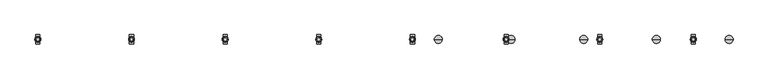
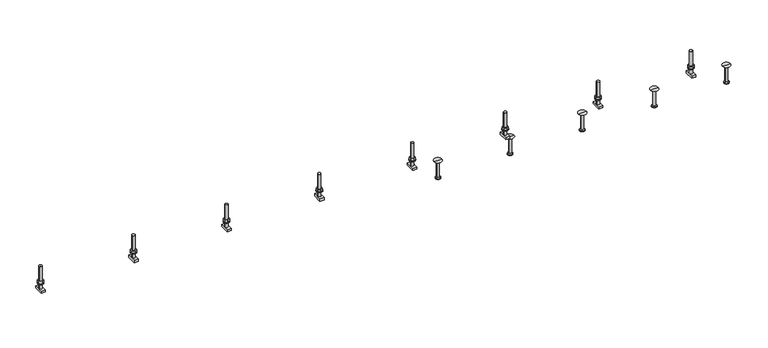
"""IFC4 building model written with IfcOpenShell, lengths in millimetres: fastener geometry, JTA-K JORDAHL® AnchorChannels : JTA-K L=3000 mm."""

from ifc_helpers import new_model, si_unit, point, frame, frame_2d, origin, place, context, project, spatial, polyline, circle_curve, trimmed, segment, composite_curve, outline, extrude, source, transform, mapped, element, save
from ifc_brep_helpers import plane_surface, cylinder_surface, revolved_surface, advanced_brep


def fastener_f85daf05(model_context):
    return source(origin(), model_context, "Body", "SolidModel", [
        extrude(outline(polyline([(2608.3333333, 9.2376043), (2616.3333333, 4.6188022), (2616.3333333, -4.6188022), (2608.3333333, -9.2376043), (2600.3333333, -4.6188022), (2600.3333333, 4.6188022), (2608.3333333, 9.2376043)]), holes=[composite_curve([segment(trimmed(circle_curve(frame_2d((2608.3333333, 0.0)), 5.0), [point((2603.3333333, 0.0))], [point((2613.3333333, 0.0))], True, "CARTESIAN"), True, "CONTINUOUS"), segment(trimmed(circle_curve(frame_2d((2608.3333333, 0.0)), 5.0), [point((2613.3333333, 0.0))], [point((2603.3333333, 0.0))], True, "CARTESIAN"), True, "CONTINUOUS")], self_intersect=False)]), frame((0.0, 0.0, 17.0), z_axis=(0.0, 0.0, 1.0), x_axis=(1.0, 0.0, 0.0)), (0.0, 0.0, 1.0), 8.4),
        extrude(outline(composite_curve([segment(trimmed(circle_curve(frame_2d((2608.3333333, 0.0)), 10.0), [point((2598.3333333, 0.0))], [point((2618.3333333, 0.0))], False, "CARTESIAN"), True, "CONTINUOUS"), segment(trimmed(circle_curve(frame_2d((2608.3333333, 0.0)), 10.0), [point((2618.3333333, 0.0))], [point((2598.3333333, 0.0))], False, "CARTESIAN"), True, "CONTINUOUS")], self_intersect=False), holes=[composite_curve([segment(trimmed(circle_curve(frame_2d((2608.3333333, 0.0)), 5.25), [point((2603.0833333, 0.0))], [point((2613.5833333, 0.0))], True, "CARTESIAN"), True, "CONTINUOUS"), segment(trimmed(circle_curve(frame_2d((2608.3333333, 0.0)), 5.25), [point((2613.5833333, 0.0))], [point((2603.0833333, 0.0))], True, "CARTESIAN"), True, "CONTINUOUS")], self_intersect=False)]), frame((0.0, 0.0, 15.0), z_axis=(0.0, 0.0, 1.0), x_axis=(1.0, 0.0, 0.0)), (0.0, 0.0, 1.0), 2.0),
        extrude(outline(polyline([(2291.6666667, 9.2376043), (2299.6666667, 4.6188022), (2299.6666667, -4.6188022), (2291.6666667, -9.2376043), (2283.6666667, -4.6188022), (2283.6666667, 4.6188022), (2291.6666667, 9.2376043)]), holes=[composite_curve([segment(trimmed(circle_curve(frame_2d((2291.6666667, 0.0)), 5.0), [point((2286.6666667, 0.0))], [point((2296.6666667, 0.0))], True, "CARTESIAN"), True, "CONTINUOUS"), segment(trimmed(circle_curve(frame_2d((2291.6666667, 0.0)), 5.0), [point((2296.6666667, 0.0))], [point((2286.6666667, 0.0))], True, "CARTESIAN"), True, "CONTINUOUS")], self_intersect=False)]), frame((0.0, 0.0, 17.0), z_axis=(0.0, 0.0, 1.0), x_axis=(1.0, 0.0, 0.0)), (0.0, 0.0, 1.0), 8.4),
        extrude(outline(composite_curve([segment(trimmed(circle_curve(frame_2d((2291.6666667, 0.0)), 10.0), [point((2281.6666667, 0.0))], [point((2301.6666667, 0.0))], False, "CARTESIAN"), True, "CONTINUOUS"), segment(trimmed(circle_curve(frame_2d((2291.6666667, 0.0)), 10.0), [point((2301.6666667, 0.0))], [point((2281.6666667, 0.0))], False, "CARTESIAN"), True, "CONTINUOUS")], self_intersect=False), holes=[composite_curve([segment(trimmed(circle_curve(frame_2d((2291.6666667, 0.0)), 5.25), [point((2286.4166667, 0.0))], [point((2296.9166667, 0.0))], True, "CARTESIAN"), True, "CONTINUOUS"), segment(trimmed(circle_curve(frame_2d((2291.6666667, 0.0)), 5.25), [point((2296.9166667, 0.0))], [point((2286.4166667, 0.0))], True, "CARTESIAN"), True, "CONTINUOUS")], self_intersect=False)]), frame((0.0, 0.0, 15.0), z_axis=(0.0, 0.0, 1.0), x_axis=(1.0, 0.0, 0.0)), (0.0, 0.0, 1.0), 2.0),
        extrude(outline(polyline([(1975.0, 9.2376043), (1983.0, 4.6188022), (1983.0, -4.6188022), (1975.0, -9.2376043), (1967.0, -4.6188022), (1967.0, 4.6188022), (1975.0, 9.2376043)]), holes=[composite_curve([segment(trimmed(circle_curve(frame_2d((1975.0, 0.0)), 5.0), [point((1970.0, 0.0))], [point((1980.0, 0.0))], True, "CARTESIAN"), True, "CONTINUOUS"), segment(trimmed(circle_curve(frame_2d((1975.0, 0.0)), 5.0), [point((1980.0, 0.0))], [point((1970.0, 0.0))], True, "CARTESIAN"), True, "CONTINUOUS")], self_intersect=False)]), frame((0.0, 0.0, 17.0), z_axis=(0.0, 0.0, 1.0), x_axis=(1.0, 0.0, 0.0)), (0.0, 0.0, 1.0), 8.4),
        extrude(outline(composite_curve([segment(trimmed(circle_curve(frame_2d((1975.0, 0.0)), 10.0), [point((1965.0, 0.0))], [point((1985.0, 0.0))], False, "CARTESIAN"), True, "CONTINUOUS"), segment(trimmed(circle_curve(frame_2d((1975.0, 0.0)), 10.0), [point((1985.0, 0.0))], [point((1965.0, 0.0))], False, "CARTESIAN"), True, "CONTINUOUS")], self_intersect=False), holes=[composite_curve([segment(trimmed(circle_curve(frame_2d((1975.0, 0.0)), 5.25), [point((1969.75, 0.0))], [point((1980.25, 0.0))], True, "CARTESIAN"), True, "CONTINUOUS"), segment(trimmed(circle_curve(frame_2d((1975.0, 0.0)), 5.25), [point((1980.25, 0.0))], [point((1969.75, 0.0))], True, "CARTESIAN"), True, "CONTINUOUS")], self_intersect=False)]), frame((0.0, 0.0, 15.0), z_axis=(0.0, 0.0, 1.0), x_axis=(1.0, 0.0, 0.0)), (0.0, 0.0, 1.0), 2.0),
        extrude(outline(polyline([(1658.3333333, 9.2376043), (1666.3333333, 4.6188022), (1666.3333333, -4.6188022), (1658.3333333, -9.2376043), (1650.3333333, -4.6188022), (1650.3333333, 4.6188022), (1658.3333333, 9.2376043)]), holes=[composite_curve([segment(trimmed(circle_curve(frame_2d((1658.3333333, 0.0)), 5.0), [point((1653.3333333, 0.0))], [point((1663.3333333, 0.0))], True, "CARTESIAN"), True, "CONTINUOUS"), segment(trimmed(circle_curve(frame_2d((1658.3333333, 0.0)), 5.0), [point((1663.3333333, 0.0))], [point((1653.3333333, 0.0))], True, "CARTESIAN"), True, "CONTINUOUS")], self_intersect=False)]), frame((0.0, 0.0, 17.0), z_axis=(0.0, 0.0, 1.0), x_axis=(1.0, 0.0, 0.0)), (0.0, 0.0, 1.0), 8.4),
        extrude(outline(composite_curve([segment(trimmed(circle_curve(frame_2d((1658.3333333, 0.0)), 10.0), [point((1648.3333333, 0.0))], [point((1668.3333333, 0.0))], False, "CARTESIAN"), True, "CONTINUOUS"), segment(trimmed(circle_curve(frame_2d((1658.3333333, 0.0)), 10.0), [point((1668.3333333, 0.0))], [point((1648.3333333, 0.0))], False, "CARTESIAN"), True, "CONTINUOUS")], self_intersect=False), holes=[composite_curve([segment(trimmed(circle_curve(frame_2d((1658.3333333, 0.0)), 5.25), [point((1653.0833333, 0.0))], [point((1663.5833333, 0.0))], True, "CARTESIAN"), True, "CONTINUOUS"), segment(trimmed(circle_curve(frame_2d((1658.3333333, 0.0)), 5.25), [point((1663.5833333, 0.0))], [point((1653.0833333, 0.0))], True, "CARTESIAN"), True, "CONTINUOUS")], self_intersect=False)]), frame((0.0, 0.0, 15.0), z_axis=(0.0, 0.0, 1.0), x_axis=(1.0, 0.0, 0.0)), (0.0, 0.0, 1.0), 2.0),
        extrude(outline(polyline([(1341.6666667, 9.2376043), (1349.6666667, 4.6188022), (1349.6666667, -4.6188022), (1341.6666667, -9.2376043), (1333.6666667, -4.6188022), (1333.6666667, 4.6188022), (1341.6666667, 9.2376043)]), holes=[composite_curve([segment(trimmed(circle_curve(frame_2d((1341.6666667, 0.0)), 5.0), [point((1336.6666667, 0.0))], [point((1346.6666667, 0.0))], True, "CARTESIAN"), True, "CONTINUOUS"), segment(trimmed(circle_curve(frame_2d((1341.6666667, 0.0)), 5.0), [point((1346.6666667, 0.0))], [point((1336.6666667, 0.0))], True, "CARTESIAN"), True, "CONTINUOUS")], self_intersect=False)]), frame((0.0, 0.0, 17.0), z_axis=(0.0, 0.0, 1.0), x_axis=(1.0, 0.0, 0.0)), (0.0, 0.0, 1.0), 8.4),
        extrude(outline(composite_curve([segment(trimmed(circle_curve(frame_2d((1341.6666667, 0.0)), 10.0), [point((1331.6666667, 0.0))], [point((1351.6666667, 0.0))], False, "CARTESIAN"), True, "CONTINUOUS"), segment(trimmed(circle_curve(frame_2d((1341.6666667, 0.0)), 10.0), [point((1351.6666667, 0.0))], [point((1331.6666667, 0.0))], False, "CARTESIAN"), True, "CONTINUOUS")], self_intersect=False), holes=[composite_curve([segment(trimmed(circle_curve(frame_2d((1341.6666667, 0.0)), 5.25), [point((1336.4166667, 0.0))], [point((1346.9166667, 0.0))], True, "CARTESIAN"), True, "CONTINUOUS"), segment(trimmed(circle_curve(frame_2d((1341.6666667, 0.0)), 5.25), [point((1346.9166667, 0.0))], [point((1336.4166667, 0.0))], True, "CARTESIAN"), True, "CONTINUOUS")], self_intersect=False)]), frame((0.0, 0.0, 15.0), z_axis=(0.0, 0.0, 1.0), x_axis=(1.0, 0.0, 0.0)), (0.0, 0.0, 1.0), 2.0),
        extrude(outline(polyline([(1025.0, 9.2376043), (1033.0, 4.6188022), (1033.0, -4.6188022), (1025.0, -9.2376043), (1017.0, -4.6188022), (1017.0, 4.6188022), (1025.0, 9.2376043)]), holes=[composite_curve([segment(trimmed(circle_curve(frame_2d((1025.0, 0.0)), 5.0), [point((1020.0, 0.0))], [point((1030.0, 0.0))], True, "CARTESIAN"), True, "CONTINUOUS"), segment(trimmed(circle_curve(frame_2d((1025.0, 0.0)), 5.0), [point((1030.0, 0.0))], [point((1020.0, 0.0))], True, "CARTESIAN"), True, "CONTINUOUS")], self_intersect=False)]), frame((0.0, 0.0, 17.0), z_axis=(0.0, 0.0, 1.0), x_axis=(1.0, 0.0, 0.0)), (0.0, 0.0, 1.0), 8.4),
        extrude(outline(composite_curve([segment(trimmed(circle_curve(frame_2d((1025.0, 0.0)), 10.0), [point((1015.0, 0.0))], [point((1035.0, 0.0))], False, "CARTESIAN"), True, "CONTINUOUS"), segment(trimmed(circle_curve(frame_2d((1025.0, 0.0)), 10.0), [point((1035.0, 0.0))], [point((1015.0, 0.0))], False, "CARTESIAN"), True, "CONTINUOUS")], self_intersect=False), holes=[composite_curve([segment(trimmed(circle_curve(frame_2d((1025.0, 0.0)), 5.25), [point((1019.75, 0.0))], [point((1030.25, 0.0))], True, "CARTESIAN"), True, "CONTINUOUS"), segment(trimmed(circle_curve(frame_2d((1025.0, 0.0)), 5.25), [point((1030.25, 0.0))], [point((1019.75, 0.0))], True, "CARTESIAN"), True, "CONTINUOUS")], self_intersect=False)]), frame((0.0, 0.0, 15.0), z_axis=(0.0, 0.0, 1.0), x_axis=(1.0, 0.0, 0.0)), (0.0, 0.0, 1.0), 2.0),
        extrude(outline(polyline([(708.3333333, 9.2376043), (716.3333333, 4.6188022), (716.3333333, -4.6188022), (708.3333333, -9.2376043), (700.3333333, -4.6188022), (700.3333333, 4.6188022), (708.3333333, 9.2376043)]), holes=[composite_curve([segment(trimmed(circle_curve(frame_2d((708.3333333, 0.0)), 5.0), [point((703.3333333, 0.0))], [point((713.3333333, 0.0))], True, "CARTESIAN"), True, "CONTINUOUS"), segment(trimmed(circle_curve(frame_2d((708.3333333, 0.0)), 5.0), [point((713.3333333, 0.0))], [point((703.3333333, 0.0))], True, "CARTESIAN"), True, "CONTINUOUS")], self_intersect=False)]), frame((0.0, 0.0, 17.0), z_axis=(0.0, 0.0, 1.0), x_axis=(1.0, 0.0, 0.0)), (0.0, 0.0, 1.0), 8.4),
        extrude(outline(composite_curve([segment(trimmed(circle_curve(frame_2d((708.3333333, 0.0)), 10.0), [point((698.3333333, 0.0))], [point((718.3333333, 0.0))], False, "CARTESIAN"), True, "CONTINUOUS"), segment(trimmed(circle_curve(frame_2d((708.3333333, 0.0)), 10.0), [point((718.3333333, 0.0))], [point((698.3333333, 0.0))], False, "CARTESIAN"), True, "CONTINUOUS")], self_intersect=False), holes=[composite_curve([segment(trimmed(circle_curve(frame_2d((708.3333333, 0.0)), 5.25), [point((703.0833333, 0.0))], [point((713.5833333, 0.0))], True, "CARTESIAN"), True, "CONTINUOUS"), segment(trimmed(circle_curve(frame_2d((708.3333333, 0.0)), 5.25), [point((713.5833333, 0.0))], [point((703.0833333, 0.0))], True, "CARTESIAN"), True, "CONTINUOUS")], self_intersect=False)]), frame((0.0, 0.0, 15.0), z_axis=(0.0, 0.0, 1.0), x_axis=(1.0, 0.0, 0.0)), (0.0, 0.0, 1.0), 2.0),
        extrude(outline(polyline([(391.6666667, 9.2376043), (399.6666667, 4.6188022), (399.6666667, -4.6188022), (391.6666667, -9.2376043), (383.6666667, -4.6188022), (383.6666667, 4.6188022), (391.6666667, 9.2376043)]), holes=[composite_curve([segment(trimmed(circle_curve(frame_2d((391.6666667, 0.0)), 5.0), [point((386.6666667, 0.0))], [point((396.6666667, 0.0))], True, "CARTESIAN"), True, "CONTINUOUS"), segment(trimmed(circle_curve(frame_2d((391.6666667, 0.0)), 5.0), [point((396.6666667, 0.0))], [point((386.6666667, 0.0))], True, "CARTESIAN"), True, "CONTINUOUS")], self_intersect=False)]), frame((0.0, 0.0, 17.0), z_axis=(0.0, 0.0, 1.0), x_axis=(1.0, 0.0, 0.0)), (0.0, 0.0, 1.0), 8.4),
        extrude(outline(composite_curve([segment(trimmed(circle_curve(frame_2d((391.6666667, 0.0)), 10.0), [point((381.6666667, 0.0))], [point((401.6666667, 0.0))], False, "CARTESIAN"), True, "CONTINUOUS"), segment(trimmed(circle_curve(frame_2d((391.6666667, 0.0)), 10.0), [point((401.6666667, 0.0))], [point((381.6666667, 0.0))], False, "CARTESIAN"), True, "CONTINUOUS")], self_intersect=False), holes=[composite_curve([segment(trimmed(circle_curve(frame_2d((391.6666667, 0.0)), 5.25), [point((386.4166667, 0.0))], [point((396.9166667, 0.0))], True, "CARTESIAN"), True, "CONTINUOUS"), segment(trimmed(circle_curve(frame_2d((391.6666667, 0.0)), 5.25), [point((396.9166667, 0.0))], [point((386.4166667, 0.0))], True, "CARTESIAN"), True, "CONTINUOUS")], self_intersect=False)]), frame((0.0, 0.0, 15.0), z_axis=(0.0, 0.0, 1.0), x_axis=(1.0, 0.0, 0.0)), (0.0, 0.0, 1.0), 2.0),
        advanced_brep(
        [(2615.3333333, 16.0, -3.0), (2615.3333333, -16.0, -3.0), (2615.3333333, -16.0, -11.0), (2615.3333333, 16.0, -11.0), (2601.3333333, 16.0, -3.0), (2601.3333333, 16.0, -11.0), (2601.3333333, -16.0, -11.0), (2601.3333333, -16.0, -3.0), (2613.3333333, 0.0, -3.0), (2603.3333333, 0.0, -3.0), (2603.3333333, 0.0, 77.0), (2613.3333333, 0.0, 77.0)],
        [
            (0, 1),
            (1, 2),
            (2, 3),
            (3, 0),
            (4, 5),
            (5, 6),
            (6, 7),
            (7, 4),
            (0, 4),
            (7, 1),
            (8, 9, circle_curve(frame((2608.3333333, 0.0, -3.0), z_axis=(0.0, 0.0, -1.0), x_axis=(1.0, 0.0, 0.0)), 5.0)),
            (9, 8, circle_curve(frame((2608.3333333, 0.0, -3.0), z_axis=(0.0, 0.0, -1.0), x_axis=(1.0, 0.0, 0.0)), 5.0)),
            (6, 2),
            (5, 3),
            (10, 11, circle_curve(frame((2608.3333333, 0.0, 77.0), z_axis=(0.0, 0.0, 1.0), x_axis=(1.0, 0.0, 0.0)), 5.0)),
            (11, 10, circle_curve(frame((2608.3333333, 0.0, 77.0), z_axis=(0.0, 0.0, 1.0), x_axis=(1.0, 0.0, 0.0)), 5.0)),
            (10, 9),
            (8, 11),
        ],
        [
            plane_surface(frame((2615.3333333, -16.0, -3.0), z_axis=(1.0, 0.0, 0.0), x_axis=(0.0, -1.0, 0.0))),
            plane_surface(frame((2601.3333333, -16.0, -3.0), z_axis=(-1.0, 0.0, 0.0), x_axis=(0.0, 1.0, 0.0))),
            plane_surface(frame((2615.3333333, 16.0, -3.0), z_axis=(0.0, 0.0, 1.0), x_axis=(-1.0, 0.0, 0.0))),
            plane_surface(frame((2615.3333333, -16.0, -3.0), z_axis=(0.0, -1.0, 0.0), x_axis=(-1.0, 0.0, 0.0))),
            plane_surface(frame((2615.3333333, -16.0, -11.0), z_axis=(0.0, 0.0, -1.0), x_axis=(-1.0, 0.0, 0.0))),
            plane_surface(frame((2615.3333333, 16.0, -11.0), z_axis=(0.0, 1.0, 0.0), x_axis=(-1.0, 0.0, 0.0))),
            plane_surface(frame((2613.3333333, 0.0, 77.0), z_axis=(0.0, 0.0, 1.0), x_axis=(0.0, 1.0, 0.0))),
            cylinder_surface(frame((2608.3333333, 0.0, -3.0), z_axis=(0.0, 0.0, 1.0), x_axis=(1.0, 0.0, 0.0)), 5.0),
        ],
        [
            (0, [[1, 2, 3, 4]]),
            (1, [[5, 6, 7, 8]]),
            (2, [[-1, 9, -8, 10], [11, 12]]),
            (3, [[-2, -10, -7, 13]]),
            (4, [[-3, -13, -6, 14]]),
            (5, [[-4, -14, -5, -9]]),
            (6, [[15, 16]]),
            (7, [[-15, 17, -11, 18]]),
            (7, [[-16, -18, -12, -17]]),
        ],
    ),
        advanced_brep(
        [(2298.6666667, 16.0, -3.0), (2298.6666667, -16.0, -3.0), (2298.6666667, -16.0, -11.0), (2298.6666667, 16.0, -11.0), (2284.6666667, 16.0, -3.0), (2284.6666667, 16.0, -11.0), (2284.6666667, -16.0, -11.0), (2284.6666667, -16.0, -3.0), (2296.6666667, 0.0, -3.0), (2286.6666667, 0.0, -3.0), (2286.6666667, 0.0, 77.0), (2296.6666667, 0.0, 77.0)],
        [
            (0, 1),
            (1, 2),
            (2, 3),
            (3, 0),
            (4, 5),
            (5, 6),
            (6, 7),
            (7, 4),
            (0, 4),
            (7, 1),
            (8, 9, circle_curve(frame((2291.6666667, 0.0, -3.0), z_axis=(0.0, 0.0, -1.0), x_axis=(1.0, 0.0, 0.0)), 5.0)),
            (9, 8, circle_curve(frame((2291.6666667, 0.0, -3.0), z_axis=(0.0, 0.0, -1.0), x_axis=(1.0, 0.0, 0.0)), 5.0)),
            (6, 2),
            (5, 3),
            (10, 11, circle_curve(frame((2291.6666667, 0.0, 77.0), z_axis=(0.0, 0.0, 1.0), x_axis=(1.0, 0.0, 0.0)), 5.0)),
            (11, 10, circle_curve(frame((2291.6666667, 0.0, 77.0), z_axis=(0.0, 0.0, 1.0), x_axis=(1.0, 0.0, 0.0)), 5.0)),
            (10, 9),
            (8, 11),
        ],
        [
            plane_surface(frame((2298.6666667, -16.0, -3.0), z_axis=(1.0, 0.0, 0.0), x_axis=(0.0, -1.0, 0.0))),
            plane_surface(frame((2284.6666667, -16.0, -3.0), z_axis=(-1.0, 0.0, 0.0), x_axis=(0.0, 1.0, 0.0))),
            plane_surface(frame((2298.6666667, 16.0, -3.0), z_axis=(0.0, 0.0, 1.0), x_axis=(-1.0, 0.0, 0.0))),
            plane_surface(frame((2298.6666667, -16.0, -3.0), z_axis=(0.0, -1.0, 0.0), x_axis=(-1.0, 0.0, 0.0))),
            plane_surface(frame((2298.6666667, -16.0, -11.0), z_axis=(0.0, 0.0, -1.0), x_axis=(-1.0, 0.0, 0.0))),
            plane_surface(frame((2298.6666667, 16.0, -11.0), z_axis=(0.0, 1.0, 0.0), x_axis=(-1.0, 0.0, 0.0))),
            plane_surface(frame((2296.6666667, 0.0, 77.0), z_axis=(0.0, 0.0, 1.0), x_axis=(0.0, 1.0, 0.0))),
            cylinder_surface(frame((2291.6666667, 0.0, -3.0), z_axis=(0.0, 0.0, 1.0), x_axis=(1.0, 0.0, 0.0)), 5.0),
        ],
        [
            (0, [[1, 2, 3, 4]]),
            (1, [[5, 6, 7, 8]]),
            (2, [[-1, 9, -8, 10], [11, 12]]),
            (3, [[-2, -10, -7, 13]]),
            (4, [[-3, -13, -6, 14]]),
            (5, [[-4, -14, -5, -9]]),
            (6, [[15, 16]]),
            (7, [[-15, 17, -11, 18]]),
            (7, [[-16, -18, -12, -17]]),
        ],
    ),
        advanced_brep(
        [(1982.0, 16.0, -3.0), (1982.0, -16.0, -3.0), (1982.0, -16.0, -11.0), (1982.0, 16.0, -11.0), (1968.0, 16.0, -3.0), (1968.0, 16.0, -11.0), (1968.0, -16.0, -11.0), (1968.0, -16.0, -3.0), (1980.0, 0.0, -3.0), (1970.0, 0.0, -3.0), (1970.0, 0.0, 77.0), (1980.0, 0.0, 77.0)],
        [
            (0, 1),
            (1, 2),
            (2, 3),
            (3, 0),
            (4, 5),
            (5, 6),
            (6, 7),
            (7, 4),
            (0, 4),
            (7, 1),
            (8, 9, circle_curve(frame((1975.0, 0.0, -3.0), z_axis=(0.0, 0.0, -1.0), x_axis=(1.0, 0.0, 0.0)), 5.0)),
            (9, 8, circle_curve(frame((1975.0, 0.0, -3.0), z_axis=(0.0, 0.0, -1.0), x_axis=(1.0, 0.0, 0.0)), 5.0)),
            (6, 2),
            (5, 3),
            (10, 11, circle_curve(frame((1975.0, 0.0, 77.0), z_axis=(0.0, 0.0, 1.0), x_axis=(1.0, 0.0, 0.0)), 5.0)),
            (11, 10, circle_curve(frame((1975.0, 0.0, 77.0), z_axis=(0.0, 0.0, 1.0), x_axis=(1.0, 0.0, 0.0)), 5.0)),
            (10, 9),
            (8, 11),
        ],
        [
            plane_surface(frame((1982.0, -16.0, -3.0), z_axis=(1.0, 0.0, 0.0), x_axis=(0.0, -1.0, 0.0))),
            plane_surface(frame((1968.0, -16.0, -3.0), z_axis=(-1.0, 0.0, 0.0), x_axis=(0.0, 1.0, 0.0))),
            plane_surface(frame((1982.0, 16.0, -3.0), z_axis=(0.0, 0.0, 1.0), x_axis=(-1.0, 0.0, 0.0))),
            plane_surface(frame((1982.0, -16.0, -3.0), z_axis=(0.0, -1.0, 0.0), x_axis=(-1.0, 0.0, 0.0))),
            plane_surface(frame((1982.0, -16.0, -11.0), z_axis=(0.0, 0.0, -1.0), x_axis=(-1.0, 0.0, 0.0))),
            plane_surface(frame((1982.0, 16.0, -11.0), z_axis=(0.0, 1.0, 0.0), x_axis=(-1.0, 0.0, 0.0))),
            plane_surface(frame((1980.0, 0.0, 77.0), z_axis=(0.0, 0.0, 1.0), x_axis=(0.0, 1.0, 0.0))),
            cylinder_surface(frame((1975.0, 0.0, -3.0), z_axis=(0.0, 0.0, 1.0), x_axis=(1.0, 0.0, 0.0)), 5.0),
        ],
        [
            (0, [[1, 2, 3, 4]]),
            (1, [[5, 6, 7, 8]]),
            (2, [[-1, 9, -8, 10], [11, 12]]),
            (3, [[-2, -10, -7, 13]]),
            (4, [[-3, -13, -6, 14]]),
            (5, [[-4, -14, -5, -9]]),
            (6, [[15, 16]]),
            (7, [[-15, 17, -11, 18]]),
            (7, [[-16, -18, -12, -17]]),
        ],
    ),
        advanced_brep(
        [(1665.3333333, 16.0, -3.0), (1665.3333333, -16.0, -3.0), (1665.3333333, -16.0, -11.0), (1665.3333333, 16.0, -11.0), (1651.3333333, 16.0, -3.0), (1651.3333333, 16.0, -11.0), (1651.3333333, -16.0, -11.0), (1651.3333333, -16.0, -3.0), (1663.3333333, 0.0, -3.0), (1653.3333333, 0.0, -3.0), (1653.3333333, 0.0, 77.0), (1663.3333333, 0.0, 77.0)],
        [
            (0, 1),
            (1, 2),
            (2, 3),
            (3, 0),
            (4, 5),
            (5, 6),
            (6, 7),
            (7, 4),
            (0, 4),
            (7, 1),
            (8, 9, circle_curve(frame((1658.3333333, 0.0, -3.0), z_axis=(0.0, 0.0, -1.0), x_axis=(1.0, 0.0, 0.0)), 5.0)),
            (9, 8, circle_curve(frame((1658.3333333, 0.0, -3.0), z_axis=(0.0, 0.0, -1.0), x_axis=(1.0, 0.0, 0.0)), 5.0)),
            (6, 2),
            (5, 3),
            (10, 11, circle_curve(frame((1658.3333333, 0.0, 77.0), z_axis=(0.0, 0.0, 1.0), x_axis=(1.0, 0.0, 0.0)), 5.0)),
            (11, 10, circle_curve(frame((1658.3333333, 0.0, 77.0), z_axis=(0.0, 0.0, 1.0), x_axis=(1.0, 0.0, 0.0)), 5.0)),
            (10, 9),
            (8, 11),
        ],
        [
            plane_surface(frame((1665.3333333, -16.0, -3.0), z_axis=(1.0, 0.0, 0.0), x_axis=(0.0, -1.0, 0.0))),
            plane_surface(frame((1651.3333333, -16.0, -3.0), z_axis=(-1.0, 0.0, 0.0), x_axis=(0.0, 1.0, 0.0))),
            plane_surface(frame((1665.3333333, 16.0, -3.0), z_axis=(0.0, 0.0, 1.0), x_axis=(-1.0, 0.0, 0.0))),
            plane_surface(frame((1665.3333333, -16.0, -3.0), z_axis=(0.0, -1.0, 0.0), x_axis=(-1.0, 0.0, 0.0))),
            plane_surface(frame((1665.3333333, -16.0, -11.0), z_axis=(0.0, 0.0, -1.0), x_axis=(-1.0, 0.0, 0.0))),
            plane_surface(frame((1665.3333333, 16.0, -11.0), z_axis=(0.0, 1.0, 0.0), x_axis=(-1.0, 0.0, 0.0))),
            plane_surface(frame((1663.3333333, 0.0, 77.0), z_axis=(0.0, 0.0, 1.0), x_axis=(0.0, 1.0, 0.0))),
            cylinder_surface(frame((1658.3333333, 0.0, -3.0), z_axis=(0.0, 0.0, 1.0), x_axis=(1.0, 0.0, 0.0)), 5.0),
        ],
        [
            (0, [[1, 2, 3, 4]]),
            (1, [[5, 6, 7, 8]]),
            (2, [[-1, 9, -8, 10], [11, 12]]),
            (3, [[-2, -10, -7, 13]]),
            (4, [[-3, -13, -6, 14]]),
            (5, [[-4, -14, -5, -9]]),
            (6, [[15, 16]]),
            (7, [[-15, 17, -11, 18]]),
            (7, [[-16, -18, -12, -17]]),
        ],
    ),
        advanced_brep(
        [(1348.6666667, 16.0, -3.0), (1348.6666667, -16.0, -3.0), (1348.6666667, -16.0, -11.0), (1348.6666667, 16.0, -11.0), (1334.6666667, 16.0, -3.0), (1334.6666667, 16.0, -11.0), (1334.6666667, -16.0, -11.0), (1334.6666667, -16.0, -3.0), (1346.6666667, 0.0, -3.0), (1336.6666667, 0.0, -3.0), (1336.6666667, 0.0, 77.0), (1346.6666667, 0.0, 77.0)],
        [
            (0, 1),
            (1, 2),
            (2, 3),
            (3, 0),
            (4, 5),
            (5, 6),
            (6, 7),
            (7, 4),
            (0, 4),
            (7, 1),
            (8, 9, circle_curve(frame((1341.6666667, 0.0, -3.0), z_axis=(0.0, 0.0, -1.0), x_axis=(1.0, 0.0, 0.0)), 5.0)),
            (9, 8, circle_curve(frame((1341.6666667, 0.0, -3.0), z_axis=(0.0, 0.0, -1.0), x_axis=(1.0, 0.0, 0.0)), 5.0)),
            (6, 2),
            (5, 3),
            (10, 11, circle_curve(frame((1341.6666667, 0.0, 77.0), z_axis=(0.0, 0.0, 1.0), x_axis=(1.0, 0.0, 0.0)), 5.0)),
            (11, 10, circle_curve(frame((1341.6666667, 0.0, 77.0), z_axis=(0.0, 0.0, 1.0), x_axis=(1.0, 0.0, 0.0)), 5.0)),
            (10, 9),
            (8, 11),
        ],
        [
            plane_surface(frame((1348.6666667, -16.0, -3.0), z_axis=(1.0, 0.0, 0.0), x_axis=(0.0, -1.0, 0.0))),
            plane_surface(frame((1334.6666667, -16.0, -3.0), z_axis=(-1.0, 0.0, 0.0), x_axis=(0.0, 1.0, 0.0))),
            plane_surface(frame((1348.6666667, 16.0, -3.0), z_axis=(0.0, 0.0, 1.0), x_axis=(-1.0, 0.0, 0.0))),
            plane_surface(frame((1348.6666667, -16.0, -3.0), z_axis=(0.0, -1.0, 0.0), x_axis=(-1.0, 0.0, 0.0))),
            plane_surface(frame((1348.6666667, -16.0, -11.0), z_axis=(0.0, 0.0, -1.0), x_axis=(-1.0, 0.0, 0.0))),
            plane_surface(frame((1348.6666667, 16.0, -11.0), z_axis=(0.0, 1.0, 0.0), x_axis=(-1.0, 0.0, 0.0))),
            plane_surface(frame((1346.6666667, 0.0, 77.0), z_axis=(0.0, 0.0, 1.0), x_axis=(0.0, 1.0, 0.0))),
            cylinder_surface(frame((1341.6666667, 0.0, -3.0), z_axis=(0.0, 0.0, 1.0), x_axis=(1.0, 0.0, 0.0)), 5.0),
        ],
        [
            (0, [[1, 2, 3, 4]]),
            (1, [[5, 6, 7, 8]]),
            (2, [[-1, 9, -8, 10], [11, 12]]),
            (3, [[-2, -10, -7, 13]]),
            (4, [[-3, -13, -6, 14]]),
            (5, [[-4, -14, -5, -9]]),
            (6, [[15, 16]]),
            (7, [[-15, 17, -11, 18]]),
            (7, [[-16, -18, -12, -17]]),
        ],
    ),
        advanced_brep(
        [(1032.0, 16.0, -3.0), (1032.0, -16.0, -3.0), (1032.0, -16.0, -11.0), (1032.0, 16.0, -11.0), (1018.0, 16.0, -3.0), (1018.0, 16.0, -11.0), (1018.0, -16.0, -11.0), (1018.0, -16.0, -3.0), (1030.0, 0.0, -3.0), (1020.0, 0.0, -3.0), (1020.0, 0.0, 77.0), (1030.0, 0.0, 77.0)],
        [
            (0, 1),
            (1, 2),
            (2, 3),
            (3, 0),
            (4, 5),
            (5, 6),
            (6, 7),
            (7, 4),
            (0, 4),
            (7, 1),
            (8, 9, circle_curve(frame((1025.0, 0.0, -3.0), z_axis=(0.0, 0.0, -1.0), x_axis=(1.0, 0.0, 0.0)), 5.0)),
            (9, 8, circle_curve(frame((1025.0, 0.0, -3.0), z_axis=(0.0, 0.0, -1.0), x_axis=(1.0, 0.0, 0.0)), 5.0)),
            (6, 2),
            (5, 3),
            (10, 11, circle_curve(frame((1025.0, 0.0, 77.0), z_axis=(0.0, 0.0, 1.0), x_axis=(1.0, 0.0, 0.0)), 5.0)),
            (11, 10, circle_curve(frame((1025.0, 0.0, 77.0), z_axis=(0.0, 0.0, 1.0), x_axis=(1.0, 0.0, 0.0)), 5.0)),
            (10, 9),
            (8, 11),
        ],
        [
            plane_surface(frame((1032.0, -16.0, -3.0), z_axis=(1.0, 0.0, 0.0), x_axis=(0.0, -1.0, 0.0))),
            plane_surface(frame((1018.0, -16.0, -3.0), z_axis=(-1.0, 0.0, 0.0), x_axis=(0.0, 1.0, 0.0))),
            plane_surface(frame((1032.0, 16.0, -3.0), z_axis=(0.0, 0.0, 1.0), x_axis=(-1.0, 0.0, 0.0))),
            plane_surface(frame((1032.0, -16.0, -3.0), z_axis=(0.0, -1.0, 0.0), x_axis=(-1.0, 0.0, 0.0))),
            plane_surface(frame((1032.0, -16.0, -11.0), z_axis=(0.0, 0.0, -1.0), x_axis=(-1.0, 0.0, 0.0))),
            plane_surface(frame((1032.0, 16.0, -11.0), z_axis=(0.0, 1.0, 0.0), x_axis=(-1.0, 0.0, 0.0))),
            plane_surface(frame((1030.0, 0.0, 77.0), z_axis=(0.0, 0.0, 1.0), x_axis=(0.0, 1.0, 0.0))),
            cylinder_surface(frame((1025.0, 0.0, -3.0), z_axis=(0.0, 0.0, 1.0), x_axis=(1.0, 0.0, 0.0)), 5.0),
        ],
        [
            (0, [[1, 2, 3, 4]]),
            (1, [[5, 6, 7, 8]]),
            (2, [[-1, 9, -8, 10], [11, 12]]),
            (3, [[-2, -10, -7, 13]]),
            (4, [[-3, -13, -6, 14]]),
            (5, [[-4, -14, -5, -9]]),
            (6, [[15, 16]]),
            (7, [[-15, 17, -11, 18]]),
            (7, [[-16, -18, -12, -17]]),
        ],
    ),
        advanced_brep(
        [(715.3333333, 16.0, -3.0), (715.3333333, -16.0, -3.0), (715.3333333, -16.0, -11.0), (715.3333333, 16.0, -11.0), (701.3333333, 16.0, -3.0), (701.3333333, 16.0, -11.0), (701.3333333, -16.0, -11.0), (701.3333333, -16.0, -3.0), (713.3333333, 0.0, -3.0), (703.3333333, 0.0, -3.0), (703.3333333, 0.0, 77.0), (713.3333333, 0.0, 77.0)],
        [
            (0, 1),
            (1, 2),
            (2, 3),
            (3, 0),
            (4, 5),
            (5, 6),
            (6, 7),
            (7, 4),
            (0, 4),
            (7, 1),
            (8, 9, circle_curve(frame((708.3333333, 0.0, -3.0), z_axis=(0.0, 0.0, -1.0), x_axis=(1.0, 0.0, 0.0)), 5.0)),
            (9, 8, circle_curve(frame((708.3333333, 0.0, -3.0), z_axis=(0.0, 0.0, -1.0), x_axis=(1.0, 0.0, 0.0)), 5.0)),
            (6, 2),
            (5, 3),
            (10, 11, circle_curve(frame((708.3333333, 0.0, 77.0), z_axis=(0.0, 0.0, 1.0), x_axis=(1.0, 0.0, 0.0)), 5.0)),
            (11, 10, circle_curve(frame((708.3333333, 0.0, 77.0), z_axis=(0.0, 0.0, 1.0), x_axis=(1.0, 0.0, 0.0)), 5.0)),
            (10, 9),
            (8, 11),
        ],
        [
            plane_surface(frame((715.3333333, -16.0, -3.0), z_axis=(1.0, 0.0, 0.0), x_axis=(0.0, -1.0, 0.0))),
            plane_surface(frame((701.3333333, -16.0, -3.0), z_axis=(-1.0, 0.0, 0.0), x_axis=(0.0, 1.0, 0.0))),
            plane_surface(frame((715.3333333, 16.0, -3.0), z_axis=(0.0, 0.0, 1.0), x_axis=(-1.0, 0.0, 0.0))),
            plane_surface(frame((715.3333333, -16.0, -3.0), z_axis=(0.0, -1.0, 0.0), x_axis=(-1.0, 0.0, 0.0))),
            plane_surface(frame((715.3333333, -16.0, -11.0), z_axis=(0.0, 0.0, -1.0), x_axis=(-1.0, 0.0, 0.0))),
            plane_surface(frame((715.3333333, 16.0, -11.0), z_axis=(0.0, 1.0, 0.0), x_axis=(-1.0, 0.0, 0.0))),
            plane_surface(frame((713.3333333, 0.0, 77.0), z_axis=(0.0, 0.0, 1.0), x_axis=(0.0, 1.0, 0.0))),
            cylinder_surface(frame((708.3333333, 0.0, -3.0), z_axis=(0.0, 0.0, 1.0), x_axis=(1.0, 0.0, 0.0)), 5.0),
        ],
        [
            (0, [[1, 2, 3, 4]]),
            (1, [[5, 6, 7, 8]]),
            (2, [[-1, 9, -8, 10], [11, 12]]),
            (3, [[-2, -10, -7, 13]]),
            (4, [[-3, -13, -6, 14]]),
            (5, [[-4, -14, -5, -9]]),
            (6, [[15, 16]]),
            (7, [[-15, 17, -11, 18]]),
            (7, [[-16, -18, -12, -17]]),
        ],
    ),
        advanced_brep(
        [(398.6666667, 16.0, -3.0), (398.6666667, -16.0, -3.0), (398.6666667, -16.0, -11.0), (398.6666667, 16.0, -11.0), (384.6666667, 16.0, -3.0), (384.6666667, 16.0, -11.0), (384.6666667, -16.0, -11.0), (384.6666667, -16.0, -3.0), (396.6666667, 0.0, -3.0), (386.6666667, 0.0, -3.0), (386.6666667, 0.0, 77.0), (396.6666667, 0.0, 77.0)],
        [
            (0, 1),
            (1, 2),
            (2, 3),
            (3, 0),
            (4, 5),
            (5, 6),
            (6, 7),
            (7, 4),
            (0, 4),
            (7, 1),
            (8, 9, circle_curve(frame((391.6666667, 0.0, -3.0), z_axis=(0.0, 0.0, -1.0), x_axis=(1.0, 0.0, 0.0)), 5.0)),
            (9, 8, circle_curve(frame((391.6666667, 0.0, -3.0), z_axis=(0.0, 0.0, -1.0), x_axis=(1.0, 0.0, 0.0)), 5.0)),
            (6, 2),
            (5, 3),
            (10, 11, circle_curve(frame((391.6666667, 0.0, 77.0), z_axis=(0.0, 0.0, 1.0), x_axis=(1.0, 0.0, 0.0)), 5.0)),
            (11, 10, circle_curve(frame((391.6666667, 0.0, 77.0), z_axis=(0.0, 0.0, 1.0), x_axis=(1.0, 0.0, 0.0)), 5.0)),
            (10, 9),
            (8, 11),
        ],
        [
            plane_surface(frame((398.6666667, -16.0, -3.0), z_axis=(1.0, 0.0, 0.0), x_axis=(0.0, -1.0, 0.0))),
            plane_surface(frame((384.6666667, -16.0, -3.0), z_axis=(-1.0, 0.0, 0.0), x_axis=(0.0, 1.0, 0.0))),
            plane_surface(frame((398.6666667, 16.0, -3.0), z_axis=(0.0, 0.0, 1.0), x_axis=(-1.0, 0.0, 0.0))),
            plane_surface(frame((398.6666667, -16.0, -3.0), z_axis=(0.0, -1.0, 0.0), x_axis=(-1.0, 0.0, 0.0))),
            plane_surface(frame((398.6666667, -16.0, -11.0), z_axis=(0.0, 0.0, -1.0), x_axis=(-1.0, 0.0, 0.0))),
            plane_surface(frame((398.6666667, 16.0, -11.0), z_axis=(0.0, 1.0, 0.0), x_axis=(-1.0, 0.0, 0.0))),
            plane_surface(frame((396.6666667, 0.0, 77.0), z_axis=(0.0, 0.0, 1.0), x_axis=(0.0, 1.0, 0.0))),
            cylinder_surface(frame((391.6666667, 0.0, -3.0), z_axis=(0.0, 0.0, 1.0), x_axis=(1.0, 0.0, 0.0)), 5.0),
        ],
        [
            (0, [[1, 2, 3, 4]]),
            (1, [[5, 6, 7, 8]]),
            (2, [[-1, 9, -8, 10], [11, 12]]),
            (3, [[-2, -10, -7, 13]]),
            (4, [[-3, -13, -6, 14]]),
            (5, [[-4, -14, -5, -9]]),
            (6, [[15, 16]]),
            (7, [[-15, 17, -11, 18]]),
            (7, [[-16, -18, -12, -17]]),
        ],
    ),
        advanced_brep(
        [(2729.1666667, 0.0, -17.0), (2742.6666667, 0.0, -17.0), (2715.6666667, 0.0, -17.0), (2720.6666667, 0.0, -80.0), (2737.6666667, 0.0, -80.0), (2729.1666667, 0.0, -80.0), (2720.6666667, 0.0, -78.0), (2737.6666667, 0.0, -78.0), (2724.6666667, 0.0, -75.6905989), (2733.6666667, 0.0, -75.6905989), (2724.6666667, 0.0, -19.5), (2733.6666667, 0.0, -19.5)],
        [
            (0, 1),
            (1, 2, circle_curve(frame((2729.1666667, 0.0, -17.0), z_axis=(0.0, 0.0, 1.0), x_axis=(1.0, 0.0, 0.0)), 13.5)),
            (2, 0),
            (2, 1, circle_curve(frame((2729.1666667, 0.0, -17.0), z_axis=(0.0, 0.0, 1.0), x_axis=(1.0, 0.0, 0.0)), 13.5)),
            (3, 4, circle_curve(frame((2729.1666667, 0.0, -80.0), z_axis=(0.0, 0.0, -1.0), x_axis=(1.0, 0.0, 0.0)), 8.5)),
            (4, 5),
            (5, 3),
            (4, 3, circle_curve(frame((2729.1666667, 0.0, -80.0), z_axis=(0.0, 0.0, -1.0), x_axis=(1.0, 0.0, 0.0)), 8.5)),
            (6, 7, circle_curve(frame((2729.1666667, 0.0, -78.0), z_axis=(0.0, 0.0, -1.0), x_axis=(1.0, 0.0, 0.0)), 8.5)),
            (7, 4),
            (3, 6),
            (7, 6, circle_curve(frame((2729.1666667, 0.0, -78.0), z_axis=(0.0, 0.0, -1.0), x_axis=(1.0, 0.0, 0.0)), 8.5)),
            (8, 9, circle_curve(frame((2729.1666667, 0.0, -75.6905989), z_axis=(0.0, 0.0, -1.0), x_axis=(1.0, 0.0, 0.0)), 4.5)),
            (9, 7),
            (6, 8),
            (9, 8, circle_curve(frame((2729.1666667, 0.0, -75.6905989), z_axis=(0.0, 0.0, -1.0), x_axis=(1.0, 0.0, 0.0)), 4.5)),
            (10, 11, circle_curve(frame((2729.1666667, 0.0, -19.5), z_axis=(0.0, 0.0, -1.0), x_axis=(1.0, 0.0, 0.0)), 4.5)),
            (11, 9),
            (8, 10),
            (11, 10, circle_curve(frame((2729.1666667, 0.0, -19.5), z_axis=(0.0, 0.0, -1.0), x_axis=(1.0, 0.0, 0.0)), 4.5)),
            (1, 11),
            (10, 2),
        ],
        [
            plane_surface(frame((2729.1666667, 0.0, -17.0), z_axis=(0.0, 0.0, 1.0), x_axis=(1.0, 0.0, 0.0))),
            plane_surface(frame((2729.1666667, 0.0, -80.0), z_axis=(0.0, 0.0, -1.0), x_axis=(1.0, 0.0, 0.0))),
            cylinder_surface(frame((2729.1666667, 0.0, 2277.3150031), z_axis=(0.0, 0.0, 1.0), x_axis=(1.0, 0.0, 0.0)), 8.5),
            revolved_surface(polyline([(2737.6666667, 0.0, -78.0), (2733.6666667, 0.0, -75.6905989)]), (2729.1666667, 0.0, 2277.3150031), (0.0, 0.0, 1.0)),
            cylinder_surface(frame((2729.1666667, 0.0, 2277.3150031), z_axis=(0.0, 0.0, 1.0), x_axis=(1.0, 0.0, 0.0)), 4.5),
            revolved_surface(polyline([(2733.6666667, 0.0, -19.5), (2742.6666667, 0.0, -17.0)]), (2729.1666667, 0.0, 2277.3150031), (0.0, 0.0, 1.0)),
        ],
        [
            (0, [[1, 2, 3]]),
            (0, [[-3, 4, -1]]),
            (1, [[5, 6, 7]]),
            (1, [[8, -7, -6]]),
            (2, [[9, 10, -5, 11]]),
            (2, [[12, -11, -8, -10]]),
            (3, [[13, 14, -9, 15]]),
            (3, [[16, -15, -12, -14]]),
            (4, [[17, 18, -13, 19]]),
            (4, [[20, -19, -16, -18]]),
            (5, [[-2, 21, -17, 22]]),
            (5, [[-4, -22, -20, -21]]),
        ],
    ),
        advanced_brep(
        [(2483.3333333, 0.0, -17.0), (2496.8333333, 0.0, -17.0), (2469.8333333, 0.0, -17.0), (2474.8333333, 0.0, -80.0), (2491.8333333, 0.0, -80.0), (2483.3333333, 0.0, -80.0), (2474.8333333, 0.0, -78.0), (2491.8333333, 0.0, -78.0), (2478.8333333, 0.0, -75.6905989), (2487.8333333, 0.0, -75.6905989), (2478.8333333, 0.0, -19.5), (2487.8333333, 0.0, -19.5)],
        [
            (0, 1),
            (1, 2, circle_curve(frame((2483.3333333, 0.0, -17.0), z_axis=(0.0, 0.0, 1.0), x_axis=(1.0, 0.0, 0.0)), 13.5)),
            (2, 0),
            (2, 1, circle_curve(frame((2483.3333333, 0.0, -17.0), z_axis=(0.0, 0.0, 1.0), x_axis=(1.0, 0.0, 0.0)), 13.5)),
            (3, 4, circle_curve(frame((2483.3333333, 0.0, -80.0), z_axis=(0.0, 0.0, -1.0), x_axis=(1.0, 0.0, 0.0)), 8.5)),
            (4, 5),
            (5, 3),
            (4, 3, circle_curve(frame((2483.3333333, 0.0, -80.0), z_axis=(0.0, 0.0, -1.0), x_axis=(1.0, 0.0, 0.0)), 8.5)),
            (6, 7, circle_curve(frame((2483.3333333, 0.0, -78.0), z_axis=(0.0, 0.0, -1.0), x_axis=(1.0, 0.0, 0.0)), 8.5)),
            (7, 4),
            (3, 6),
            (7, 6, circle_curve(frame((2483.3333333, 0.0, -78.0), z_axis=(0.0, 0.0, -1.0), x_axis=(1.0, 0.0, 0.0)), 8.5)),
            (8, 9, circle_curve(frame((2483.3333333, 0.0, -75.6905989), z_axis=(0.0, 0.0, -1.0), x_axis=(1.0, 0.0, 0.0)), 4.5)),
            (9, 7),
            (6, 8),
            (9, 8, circle_curve(frame((2483.3333333, 0.0, -75.6905989), z_axis=(0.0, 0.0, -1.0), x_axis=(1.0, 0.0, 0.0)), 4.5)),
            (10, 11, circle_curve(frame((2483.3333333, 0.0, -19.5), z_axis=(0.0, 0.0, -1.0), x_axis=(1.0, 0.0, 0.0)), 4.5)),
            (11, 9),
            (8, 10),
            (11, 10, circle_curve(frame((2483.3333333, 0.0, -19.5), z_axis=(0.0, 0.0, -1.0), x_axis=(1.0, 0.0, 0.0)), 4.5)),
            (1, 11),
            (10, 2),
        ],
        [
            plane_surface(frame((2483.3333333, 0.0, -17.0), z_axis=(0.0, 0.0, 1.0), x_axis=(1.0, 0.0, 0.0))),
            plane_surface(frame((2483.3333333, 0.0, -80.0), z_axis=(0.0, 0.0, -1.0), x_axis=(1.0, 0.0, 0.0))),
            cylinder_surface(frame((2483.3333333, 0.0, 2277.3150031), z_axis=(0.0, 0.0, 1.0), x_axis=(1.0, 0.0, 0.0)), 8.5),
            revolved_surface(polyline([(2491.8333333, 0.0, -78.0), (2487.8333333, 0.0, -75.6905989)]), (2483.3333333, 0.0, 2277.3150031), (0.0, 0.0, 1.0)),
            cylinder_surface(frame((2483.3333333, 0.0, 2277.3150031), z_axis=(0.0, 0.0, 1.0), x_axis=(1.0, 0.0, 0.0)), 4.5),
            revolved_surface(polyline([(2487.8333333, 0.0, -19.5), (2496.8333333, 0.0, -17.0)]), (2483.3333333, 0.0, 2277.3150031), (0.0, 0.0, 1.0)),
        ],
        [
            (0, [[1, 2, 3]]),
            (0, [[-3, 4, -1]]),
            (1, [[5, 6, 7]]),
            (1, [[8, -7, -6]]),
            (2, [[9, 10, -5, 11]]),
            (2, [[12, -11, -8, -10]]),
            (3, [[13, 14, -9, 15]]),
            (3, [[16, -15, -12, -14]]),
            (4, [[17, 18, -13, 19]]),
            (4, [[20, -19, -16, -18]]),
            (5, [[-2, 21, -17, 22]]),
            (5, [[-4, -22, -20, -21]]),
        ],
    ),
        advanced_brep(
        [(2237.5, 0.0, -17.0), (2251.0, 0.0, -17.0), (2224.0, 0.0, -17.0), (2229.0, 0.0, -80.0), (2246.0, 0.0, -80.0), (2237.5, 0.0, -80.0), (2229.0, 0.0, -78.0), (2246.0, 0.0, -78.0), (2233.0, 0.0, -75.6905989), (2242.0, 0.0, -75.6905989), (2233.0, 0.0, -19.5), (2242.0, 0.0, -19.5)],
        [
            (0, 1),
            (1, 2, circle_curve(frame((2237.5, 0.0, -17.0), z_axis=(0.0, 0.0, 1.0), x_axis=(1.0, 0.0, 0.0)), 13.5)),
            (2, 0),
            (2, 1, circle_curve(frame((2237.5, 0.0, -17.0), z_axis=(0.0, 0.0, 1.0), x_axis=(1.0, 0.0, 0.0)), 13.5)),
            (3, 4, circle_curve(frame((2237.5, 0.0, -80.0), z_axis=(0.0, 0.0, -1.0), x_axis=(1.0, 0.0, 0.0)), 8.5)),
            (4, 5),
            (5, 3),
            (4, 3, circle_curve(frame((2237.5, 0.0, -80.0), z_axis=(0.0, 0.0, -1.0), x_axis=(1.0, 0.0, 0.0)), 8.5)),
            (6, 7, circle_curve(frame((2237.5, 0.0, -78.0), z_axis=(0.0, 0.0, -1.0), x_axis=(1.0, 0.0, 0.0)), 8.5)),
            (7, 4),
            (3, 6),
            (7, 6, circle_curve(frame((2237.5, 0.0, -78.0), z_axis=(0.0, 0.0, -1.0), x_axis=(1.0, 0.0, 0.0)), 8.5)),
            (8, 9, circle_curve(frame((2237.5, 0.0, -75.6905989), z_axis=(0.0, 0.0, -1.0), x_axis=(1.0, 0.0, 0.0)), 4.5)),
            (9, 7),
            (6, 8),
            (9, 8, circle_curve(frame((2237.5, 0.0, -75.6905989), z_axis=(0.0, 0.0, -1.0), x_axis=(1.0, 0.0, 0.0)), 4.5)),
            (10, 11, circle_curve(frame((2237.5, 0.0, -19.5), z_axis=(0.0, 0.0, -1.0), x_axis=(1.0, 0.0, 0.0)), 4.5)),
            (11, 9),
            (8, 10),
            (11, 10, circle_curve(frame((2237.5, 0.0, -19.5), z_axis=(0.0, 0.0, -1.0), x_axis=(1.0, 0.0, 0.0)), 4.5)),
            (1, 11),
            (10, 2),
        ],
        [
            plane_surface(frame((2237.5, 0.0, -17.0), z_axis=(0.0, 0.0, 1.0), x_axis=(1.0, 0.0, 0.0))),
            plane_surface(frame((2237.5, 0.0, -80.0), z_axis=(0.0, 0.0, -1.0), x_axis=(1.0, 0.0, 0.0))),
            cylinder_surface(frame((2237.5, 0.0, 2277.3150031), z_axis=(0.0, 0.0, 1.0), x_axis=(1.0, 0.0, 0.0)), 8.5),
            revolved_surface(polyline([(2246.0, 0.0, -78.0), (2242.0, 0.0, -75.6905989)]), (2237.5, 0.0, 2277.3150031), (0.0, 0.0, 1.0)),
            cylinder_surface(frame((2237.5, 0.0, 2277.3150031), z_axis=(0.0, 0.0, 1.0), x_axis=(1.0, 0.0, 0.0)), 4.5),
            revolved_surface(polyline([(2242.0, 0.0, -19.5), (2251.0, 0.0, -17.0)]), (2237.5, 0.0, 2277.3150031), (0.0, 0.0, 1.0)),
        ],
        [
            (0, [[1, 2, 3]]),
            (0, [[-3, 4, -1]]),
            (1, [[5, 6, 7]]),
            (1, [[8, -7, -6]]),
            (2, [[9, 10, -5, 11]]),
            (2, [[12, -11, -8, -10]]),
            (3, [[13, 14, -9, 15]]),
            (3, [[16, -15, -12, -14]]),
            (4, [[17, 18, -13, 19]]),
            (4, [[20, -19, -16, -18]]),
            (5, [[-2, 21, -17, 22]]),
            (5, [[-4, -22, -20, -21]]),
        ],
    ),
        advanced_brep(
        [(1991.6666667, 0.0, -17.0), (2005.1666667, 0.0, -17.0), (1978.1666667, 0.0, -17.0), (1983.1666667, 0.0, -80.0), (2000.1666667, 0.0, -80.0), (1991.6666667, 0.0, -80.0), (1983.1666667, 0.0, -78.0), (2000.1666667, 0.0, -78.0), (1987.1666667, 0.0, -75.6905989), (1996.1666667, 0.0, -75.6905989), (1987.1666667, 0.0, -19.5), (1996.1666667, 0.0, -19.5)],
        [
            (0, 1),
            (1, 2, circle_curve(frame((1991.6666667, 0.0, -17.0), z_axis=(0.0, 0.0, 1.0), x_axis=(1.0, 0.0, 0.0)), 13.5)),
            (2, 0),
            (2, 1, circle_curve(frame((1991.6666667, 0.0, -17.0), z_axis=(0.0, 0.0, 1.0), x_axis=(1.0, 0.0, 0.0)), 13.5)),
            (3, 4, circle_curve(frame((1991.6666667, 0.0, -80.0), z_axis=(0.0, 0.0, -1.0), x_axis=(1.0, 0.0, 0.0)), 8.5)),
            (4, 5),
            (5, 3),
            (4, 3, circle_curve(frame((1991.6666667, 0.0, -80.0), z_axis=(0.0, 0.0, -1.0), x_axis=(1.0, 0.0, 0.0)), 8.5)),
            (6, 7, circle_curve(frame((1991.6666667, 0.0, -78.0), z_axis=(0.0, 0.0, -1.0), x_axis=(1.0, 0.0, 0.0)), 8.5)),
            (7, 4),
            (3, 6),
            (7, 6, circle_curve(frame((1991.6666667, 0.0, -78.0), z_axis=(0.0, 0.0, -1.0), x_axis=(1.0, 0.0, 0.0)), 8.5)),
            (8, 9, circle_curve(frame((1991.6666667, 0.0, -75.6905989), z_axis=(0.0, 0.0, -1.0), x_axis=(1.0, 0.0, 0.0)), 4.5)),
            (9, 7),
            (6, 8),
            (9, 8, circle_curve(frame((1991.6666667, 0.0, -75.6905989), z_axis=(0.0, 0.0, -1.0), x_axis=(1.0, 0.0, 0.0)), 4.5)),
            (10, 11, circle_curve(frame((1991.6666667, 0.0, -19.5), z_axis=(0.0, 0.0, -1.0), x_axis=(1.0, 0.0, 0.0)), 4.5)),
            (11, 9),
            (8, 10),
            (11, 10, circle_curve(frame((1991.6666667, 0.0, -19.5), z_axis=(0.0, 0.0, -1.0), x_axis=(1.0, 0.0, 0.0)), 4.5)),
            (1, 11),
            (10, 2),
        ],
        [
            plane_surface(frame((1991.6666667, 0.0, -17.0), z_axis=(0.0, 0.0, 1.0), x_axis=(1.0, 0.0, 0.0))),
            plane_surface(frame((1991.6666667, 0.0, -80.0), z_axis=(0.0, 0.0, -1.0), x_axis=(1.0, 0.0, 0.0))),
            cylinder_surface(frame((1991.6666667, 0.0, 2277.3150031), z_axis=(0.0, 0.0, 1.0), x_axis=(1.0, 0.0, 0.0)), 8.5),
            revolved_surface(polyline([(2000.1666667, 0.0, -78.0), (1996.1666667, 0.0, -75.6905989)]), (1991.6666667, 0.0, 2277.3150031), (0.0, 0.0, 1.0)),
            cylinder_surface(frame((1991.6666667, 0.0, 2277.3150031), z_axis=(0.0, 0.0, 1.0), x_axis=(1.0, 0.0, 0.0)), 4.5),
            revolved_surface(polyline([(1996.1666667, 0.0, -19.5), (2005.1666667, 0.0, -17.0)]), (1991.6666667, 0.0, 2277.3150031), (0.0, 0.0, 1.0)),
        ],
        [
            (0, [[1, 2, 3]]),
            (0, [[-3, 4, -1]]),
            (1, [[5, 6, 7]]),
            (1, [[8, -7, -6]]),
            (2, [[9, 10, -5, 11]]),
            (2, [[12, -11, -8, -10]]),
            (3, [[13, 14, -9, 15]]),
            (3, [[16, -15, -12, -14]]),
            (4, [[17, 18, -13, 19]]),
            (4, [[20, -19, -16, -18]]),
            (5, [[-2, 21, -17, 22]]),
            (5, [[-4, -22, -20, -21]]),
        ],
    ),
        advanced_brep(
        [(1745.8333333, 0.0, -17.0), (1759.3333333, 0.0, -17.0), (1732.3333333, 0.0, -17.0), (1737.3333333, 0.0, -80.0), (1754.3333333, 0.0, -80.0), (1745.8333333, 0.0, -80.0), (1737.3333333, 0.0, -78.0), (1754.3333333, 0.0, -78.0), (1741.3333333, 0.0, -75.6905989), (1750.3333333, 0.0, -75.6905989), (1741.3333333, 0.0, -19.5), (1750.3333333, 0.0, -19.5)],
        [
            (0, 1),
            (1, 2, circle_curve(frame((1745.8333333, 0.0, -17.0), z_axis=(0.0, 0.0, 1.0), x_axis=(1.0, 0.0, 0.0)), 13.5)),
            (2, 0),
            (2, 1, circle_curve(frame((1745.8333333, 0.0, -17.0), z_axis=(0.0, 0.0, 1.0), x_axis=(1.0, 0.0, 0.0)), 13.5)),
            (3, 4, circle_curve(frame((1745.8333333, 0.0, -80.0), z_axis=(0.0, 0.0, -1.0), x_axis=(1.0, 0.0, 0.0)), 8.5)),
            (4, 5),
            (5, 3),
            (4, 3, circle_curve(frame((1745.8333333, 0.0, -80.0), z_axis=(0.0, 0.0, -1.0), x_axis=(1.0, 0.0, 0.0)), 8.5)),
            (6, 7, circle_curve(frame((1745.8333333, 0.0, -78.0), z_axis=(0.0, 0.0, -1.0), x_axis=(1.0, 0.0, 0.0)), 8.5)),
            (7, 4),
            (3, 6),
            (7, 6, circle_curve(frame((1745.8333333, 0.0, -78.0), z_axis=(0.0, 0.0, -1.0), x_axis=(1.0, 0.0, 0.0)), 8.5)),
            (8, 9, circle_curve(frame((1745.8333333, 0.0, -75.6905989), z_axis=(0.0, 0.0, -1.0), x_axis=(1.0, 0.0, 0.0)), 4.5)),
            (9, 7),
            (6, 8),
            (9, 8, circle_curve(frame((1745.8333333, 0.0, -75.6905989), z_axis=(0.0, 0.0, -1.0), x_axis=(1.0, 0.0, 0.0)), 4.5)),
            (10, 11, circle_curve(frame((1745.8333333, 0.0, -19.5), z_axis=(0.0, 0.0, -1.0), x_axis=(1.0, 0.0, 0.0)), 4.5)),
            (11, 9),
            (8, 10),
            (11, 10, circle_curve(frame((1745.8333333, 0.0, -19.5), z_axis=(0.0, 0.0, -1.0), x_axis=(1.0, 0.0, 0.0)), 4.5)),
            (1, 11),
            (10, 2),
        ],
        [
            plane_surface(frame((1745.8333333, 0.0, -17.0), z_axis=(0.0, 0.0, 1.0), x_axis=(1.0, 0.0, 0.0))),
            plane_surface(frame((1745.8333333, 0.0, -80.0), z_axis=(0.0, 0.0, -1.0), x_axis=(1.0, 0.0, 0.0))),
            cylinder_surface(frame((1745.8333333, 0.0, 2277.3150031), z_axis=(0.0, 0.0, 1.0), x_axis=(1.0, 0.0, 0.0)), 8.5),
            revolved_surface(polyline([(1754.3333333, 0.0, -78.0), (1750.3333333, 0.0, -75.6905989)]), (1745.8333333, 0.0, 2277.3150031), (0.0, 0.0, 1.0)),
            cylinder_surface(frame((1745.8333333, 0.0, 2277.3150031), z_axis=(0.0, 0.0, 1.0), x_axis=(1.0, 0.0, 0.0)), 4.5),
            revolved_surface(polyline([(1750.3333333, 0.0, -19.5), (1759.3333333, 0.0, -17.0)]), (1745.8333333, 0.0, 2277.3150031), (0.0, 0.0, 1.0)),
        ],
        [
            (0, [[1, 2, 3]]),
            (0, [[-3, 4, -1]]),
            (1, [[5, 6, 7]]),
            (1, [[8, -7, -6]]),
            (2, [[9, 10, -5, 11]]),
            (2, [[12, -11, -8, -10]]),
            (3, [[13, 14, -9, 15]]),
            (3, [[16, -15, -12, -14]]),
            (4, [[17, 18, -13, 19]]),
            (4, [[20, -19, -16, -18]]),
            (5, [[-2, 21, -17, 22]]),
            (5, [[-4, -22, -20, -21]]),
        ],
    ),
    ])


if __name__ == "__main__":
    model = new_model("IFC4")
    model_context = context("Model", 3, world=origin())
    ifc_project = project(units=[si_unit("LENGTHUNIT", "METRE", prefix="MILLI")], contexts=[model_context])
    site = spatial("IfcSite", under=ifc_project)
    building = spatial("IfcBuilding", under=site)
    placement = place(None, origin())
    fastener_shape = fastener_f85daf05(model_context)
    element("IfcFastener", 1, ObjectType="JTA-K JORDAHL® AnchorChannels : JTA-K L=3000 mm", at=placement, inside=building, context=model_context, shape_type="MappedRepresentation", body=[
        mapped(fastener_shape, transform((0.0, 0.0, 0.0), x_axis=(1.0, 0.0, 0.0), y_axis=(0.0, 1.0, 0.0), z_axis=(0.0, 0.0, 1.0))),
    ])
    save(model, "model.ifc")
